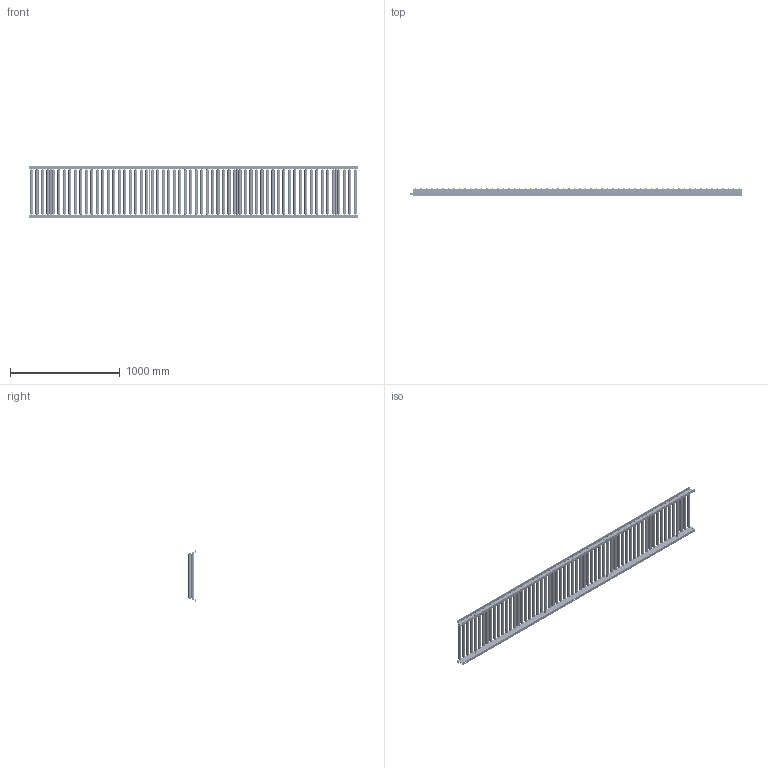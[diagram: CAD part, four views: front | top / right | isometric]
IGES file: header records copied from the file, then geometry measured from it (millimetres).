
Start section: SolidWorks IGES file using analytic representation for surfaces
Global section: file name: C:\Users\0656\Desktop\変換ツール\iges変換\RB-2812.igs; native system: SolidWorks 2023; preprocessor: SolidWorks 2023; author: 0656; date: 240220.201406; units: millimetre
Bounding box: 3025 x 66.3 x 475 mm (x, y, z)
Surface area: 5565313.9 mm2 (no closed solid volume)
Topology: 0 solids, 0 shells, 2180 faces, 41448 edges, 41448 vertices
Faces by surface type: revolution 1120, bspline 1060
